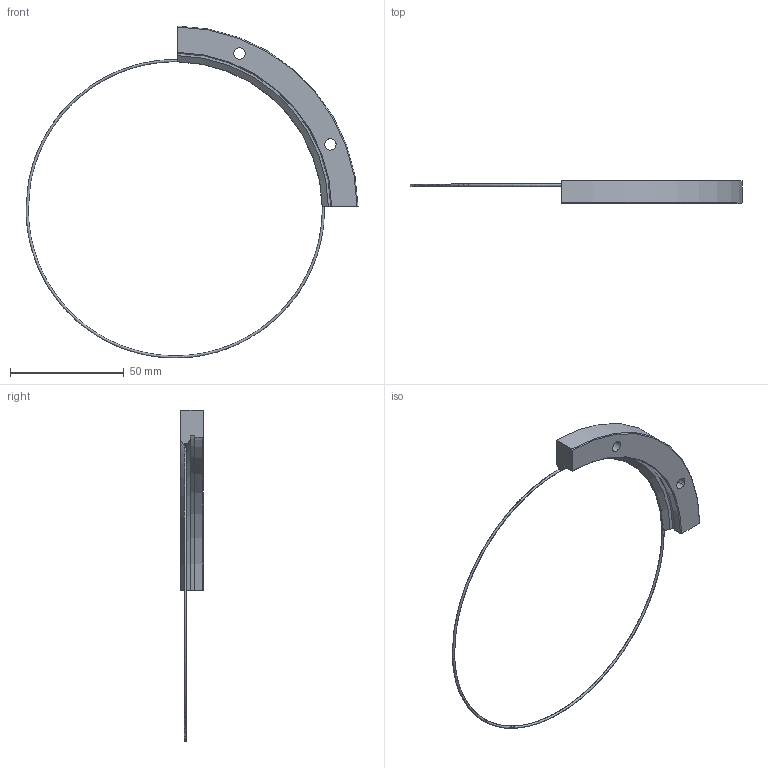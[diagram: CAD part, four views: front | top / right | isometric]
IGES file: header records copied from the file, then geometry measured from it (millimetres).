
Start section: 3D InterOp IGES (v. 2019 1.0.2), Spatial Corp. Copyright (c) 1999-2017.
Global section: file name: RIV 161 R90.igs; native system: Spatial Corp.; preprocessor: 3D InterOp GENERIC/IGES 3.0; author: Noname; organization: Noname; date: 20220719.140136; units: millimetre
Bounding box: 146.23 x 10 x 146.22 mm (x, y, z)
Surface area: 8678.4 mm2 (no closed solid volume)
Topology: 0 solids, 0 shells, 25 faces, 130 edges, 128 vertices
Faces by surface type: revolution 17, extrusion 8
